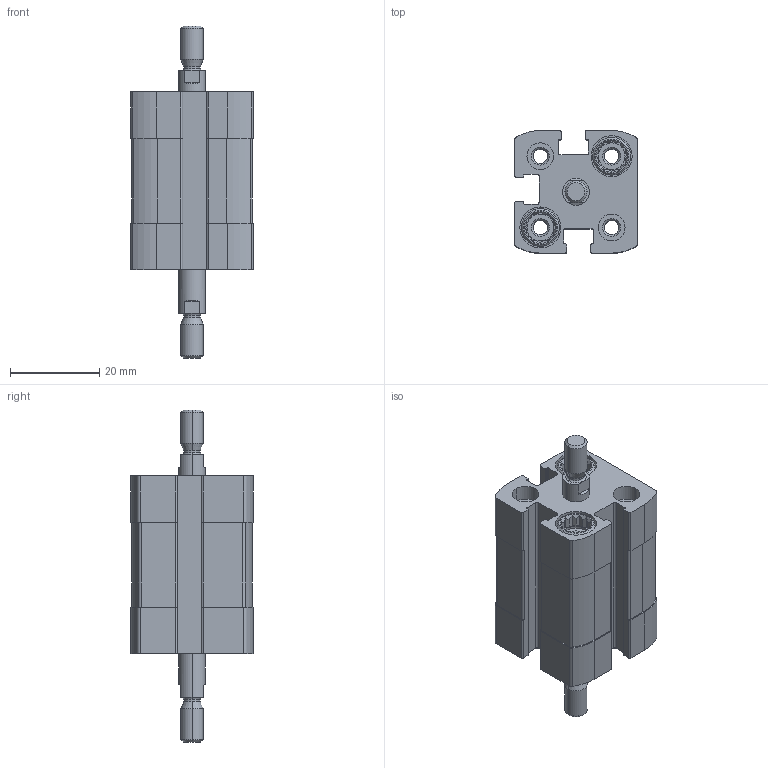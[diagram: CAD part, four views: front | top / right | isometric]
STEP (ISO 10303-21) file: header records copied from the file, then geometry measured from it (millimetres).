
FILE_DESCRIPTION (( 'STEP AP203' ), '1' );
FILE_NAME ('CCN12-5-P.STEP', '2020-06-22T18:33:45', ( '' ), ( '' ), 'SwSTEP 2.0', 'SolidWorks 2019', '' );
FILE_SCHEMA (( 'CONFIG_CONTROL_DESIGN' ));
Length unit declared in the file: millimetre
Products named in the file (1): CCN12-5-P
Bounding box: 27.5 x 27.5 x 74.5 mm (x, y, z)
Volume: 22951.6 mm3; surface area: 12817.8 mm2
Topology: 2 solids, 2 shells, 384 faces, 976 edges, 632 vertices
Faces by surface type: plane 192, cylinder 140, cone 44, torus 8
Entity records: 11783 total; most frequent: CARTESIAN_POINT 2293, DIRECTION 1986, ORIENTED_EDGE 1952, EDGE_CURVE 976, AXIS2_PLACEMENT_3D 725, VERTEX_POINT 632, LINE 536, VECTOR 536
